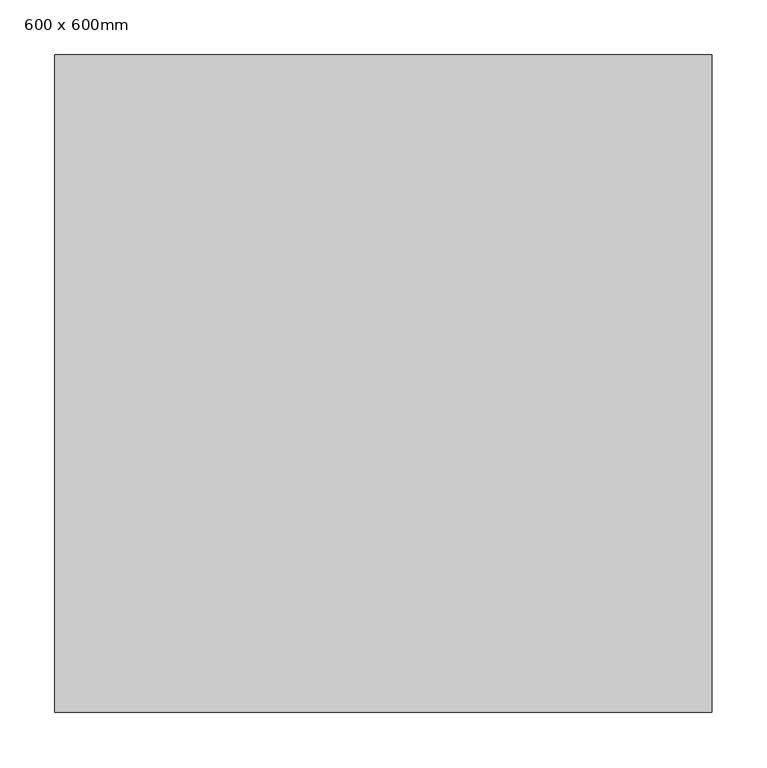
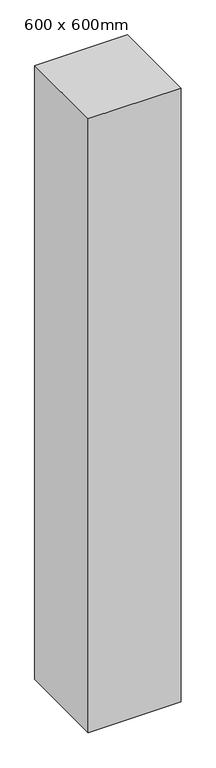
"""IFC4 building model written with IfcOpenShell, lengths in millimetres: column geometry, 矩形柱 : 600 x 600mm."""

from ifc_helpers import new_model, si_unit, frame, origin, place, context, project, spatial, polyline, outline, extrude, source, transform, mapped, element, save


def column_600_x_600mm_9016292c(model_context):
    return source(origin(), model_context, "Body", "SweptSolid", [
        extrude(outline(polyline([(300.0, -300.0), (-300.0, -300.0), (-300.0, 300.0), (300.0, 300.0), (300.0, -300.0)])), frame((0.0, 0.0, 4200.0), z_axis=(0.0, 0.0, 1.0), x_axis=(1.0, 0.0, 0.0)), (0.0, 0.0, 1.0), 4200.0),
    ])


if __name__ == "__main__":
    model = new_model("IFC4")
    model_context = context("Model", 3, world=origin())
    ifc_project = project(units=[si_unit("LENGTHUNIT", "METRE", prefix="MILLI")], contexts=[model_context])
    site = spatial("IfcSite", under=ifc_project)
    building = spatial("IfcBuilding", under=site)
    placement = place(None, origin())
    column_600_x_600mm_shape = column_600_x_600mm_9016292c(model_context)
    element("IfcColumn", 1, ObjectType="矩形柱 : 600 x 600mm", at=placement, inside=building, context=model_context, shape_type="MappedRepresentation", body=[
        mapped(column_600_x_600mm_shape, transform((0.0, 0.0, 0.0), x_axis=(1.0, 0.0, 0.0), y_axis=(0.0, 1.0, 0.0), z_axis=(0.0, 0.0, 1.0))),
    ])
    save(model, "model.ifc")
